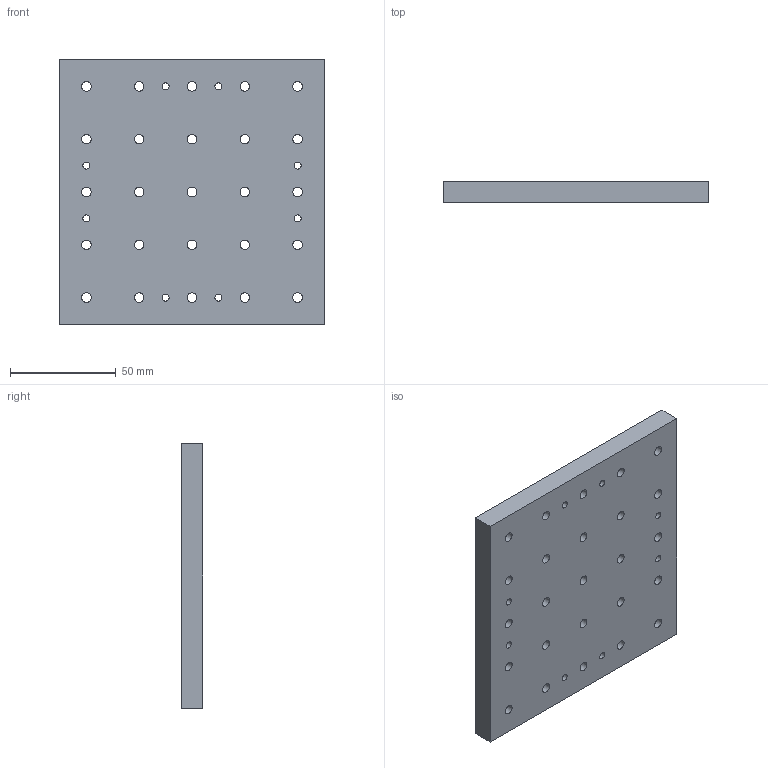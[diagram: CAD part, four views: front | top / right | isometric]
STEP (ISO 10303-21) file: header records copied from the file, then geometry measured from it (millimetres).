
FILE_DESCRIPTION(/* description */ (''),/* implementation_level */ '2;1');
FILE_NAME(/* name */ 'c-5x5-complete.stp',/* time_stamp */ '2026-04-29T11:40:17+08:00',/* author */ ('32769'),/* organization */ (''),/* preprocessor_version */ 'ST-DEVELOPER v20',/* originating_system */ 'Autodesk Inventor 2025',/* authorisation */ '');
FILE_SCHEMA (('AUTOMOTIVE_DESIGN { 1 0 10303 214 3 1 1 }'));
Length unit declared in the file: millimetre
Products named in the file (1): c-5x5-complete
Bounding box: 125 x 10 x 125 mm (x, y, z)
Volume: 151589.7 mm3; surface area: 39681.6 mm2
Topology: 1 solids, 1 shells, 39 faces, 111 edges, 74 vertices
Faces by surface type: cylinder 33, plane 6
Full cylindrical faces by diameter (mm): 3.3 x8, 4.5 x25
Entity records: 1486 total; most frequent: DIRECTION 257, CARTESIAN_POINT 225, ORIENTED_EDGE 222, EDGE_CURVE 111, AXIS2_PLACEMENT_3D 106, EDGE_LOOP 105, VERTEX_POINT 74, FACE_BOUND 66
